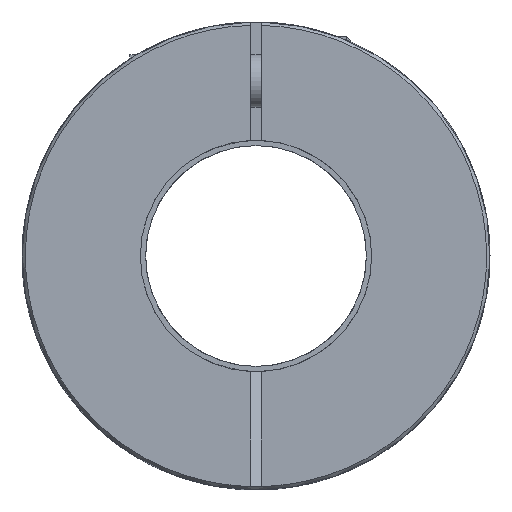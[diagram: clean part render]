
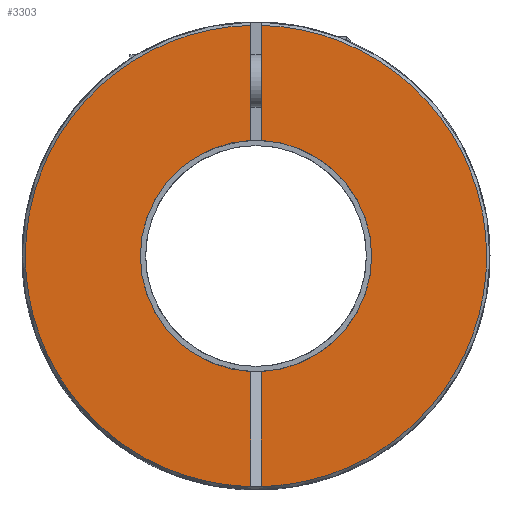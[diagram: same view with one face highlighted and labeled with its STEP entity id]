
A CAD part, front view. The second image highlights one B-rep face of the part: STEP entity #3303.
In plain terms, the highlighted planar face has unit normal (0, -1, 0).
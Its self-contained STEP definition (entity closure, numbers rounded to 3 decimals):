
#1=DIRECTION('',(0.,0.,-1.));
#2=VECTOR('',#1,10.936);
#3=CARTESIAN_POINT('',(-0.5,-38.1,21.924));
#4=LINE('',#3,#2);
#5=CARTESIAN_POINT('',(0.,-38.1,0.));
#6=DIRECTION('',(0.,1.,0.));
#7=DIRECTION('',(-1.,0.,0.));
#8=AXIS2_PLACEMENT_3D('',#5,#6,#7);
#10=CARTESIAN_POINT('',(0.,-38.1,0.));
#11=DIRECTION('',(0.,1.,0.));
#12=DIRECTION('',(-0.045,0.,-0.999));
#13=AXIS2_PLACEMENT_3D('',#10,#11,#12);
#15=DIRECTION('',(0.,0.,-1.));
#16=VECTOR('',#15,10.911);
#17=CARTESIAN_POINT('',(-0.5,-38.1,-10.989));
#18=LINE('',#17,#16);
#19=DIRECTION('',(1.,0.,0.));
#20=VECTOR('',#19,1.);
#21=CARTESIAN_POINT('',(-0.5,-38.1,-21.9));
#22=LINE('',#21,#20);
#23=DIRECTION('',(0.,0.,-1.));
#24=VECTOR('',#23,10.911);
#25=CARTESIAN_POINT('',(0.5,-38.1,-10.989));
#26=LINE('',#25,#24);
#27=DIRECTION('',(0.,0.,-1.));
#28=VECTOR('',#27,10.936);
#29=CARTESIAN_POINT('',(0.5,-38.1,21.924));
#30=LINE('',#29,#28);
#54=CARTESIAN_POINT('',(0.,-38.1,0.));
#55=DIRECTION('',(0.,1.,0.));
#56=DIRECTION('',(0.045,0.,0.999));
#57=AXIS2_PLACEMENT_3D('',#54,#55,#56);
#2792=CARTESIAN_POINT('',(0.,-38.1,0.));
#2793=DIRECTION('',(0.,-1.,0.));
#2794=DIRECTION('',(-0.023,0.,1.));
#2795=AXIS2_PLACEMENT_3D('',#2792,#2793,#2794);
#2949=CARTESIAN_POINT('',(-11.,-38.1,0.));
#2950=VERTEX_POINT('',#2949);
#3026=CARTESIAN_POINT('',(-0.5,-38.1,-21.9));
#3028=VERTEX_POINT('',#3026);
#3030=CARTESIAN_POINT('',(0.5,-38.1,-21.9));
#3032=VERTEX_POINT('',#3030);
#3079=CARTESIAN_POINT('',(-0.5,-38.1,21.924));
#3080=CARTESIAN_POINT('',(-0.5,-38.1,10.989));
#3081=VERTEX_POINT('',#3079);
#3082=VERTEX_POINT('',#3080);
#3083=CARTESIAN_POINT('',(-0.5,-38.1,-10.989));
#3084=VERTEX_POINT('',#3083);
#3085=CARTESIAN_POINT('',(0.5,-38.1,21.924));
#3086=CARTESIAN_POINT('',(0.5,-38.1,10.989));
#3087=VERTEX_POINT('',#3085);
#3088=VERTEX_POINT('',#3086);
#3089=CARTESIAN_POINT('',(0.5,-38.1,-10.989));
#3090=VERTEX_POINT('',#3089);
#3278=CARTESIAN_POINT('',(0.,-38.1,0.));
#3279=DIRECTION('',(0.,1.,0.));
#3280=DIRECTION('',(1.,0.,0.));
#3281=AXIS2_PLACEMENT_3D('',#3278,#3279,#3280);
#3282=PLANE('',#3281);
#3284=ORIENTED_EDGE('',*,*,#3283,.T.);
#3286=ORIENTED_EDGE('',*,*,#3285,.F.);
#3288=ORIENTED_EDGE('',*,*,#3287,.F.);
#3290=ORIENTED_EDGE('',*,*,#3289,.T.);
#3292=ORIENTED_EDGE('',*,*,#3291,.T.);
#3294=ORIENTED_EDGE('',*,*,#3293,.F.);
#3296=ORIENTED_EDGE('',*,*,#3295,.F.);
#3298=ORIENTED_EDGE('',*,*,#3297,.F.);
#3300=ORIENTED_EDGE('',*,*,#3299,.F.);
#3301=EDGE_LOOP('',(#3284,#3286,#3288,#3290,#3292,#3294,#3296,#3298,#3300));
#3302=FACE_OUTER_BOUND('',#3301,.F.);
#3303=ADVANCED_FACE('',(#3302),#3282,.F.);
#9=CIRCLE('',#8,11.);
#14=CIRCLE('',#13,11.);
#58=CIRCLE('',#57,11.);
#2796=CIRCLE('',#2795,21.93);
#3283=EDGE_CURVE('',#3081,#3082,#4,.T.);
#3285=EDGE_CURVE('',#2950,#3082,#9,.T.);
#3287=EDGE_CURVE('',#3084,#2950,#14,.T.);
#3289=EDGE_CURVE('',#3084,#3028,#18,.T.);
#3291=EDGE_CURVE('',#3028,#3032,#22,.T.);
#3293=EDGE_CURVE('',#3090,#3032,#26,.T.);
#3295=EDGE_CURVE('',#3088,#3090,#58,.T.);
#3297=EDGE_CURVE('',#3087,#3088,#30,.T.);
#3299=EDGE_CURVE('',#3081,#3087,#2796,.T.);
